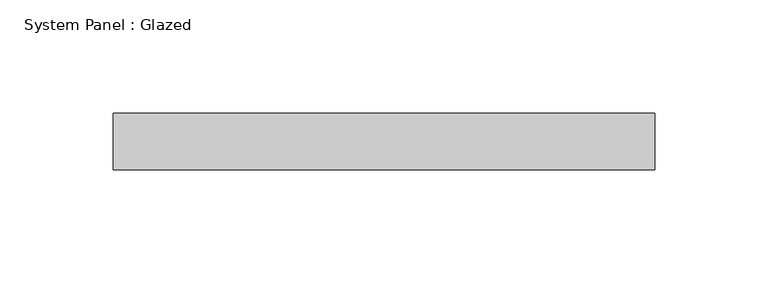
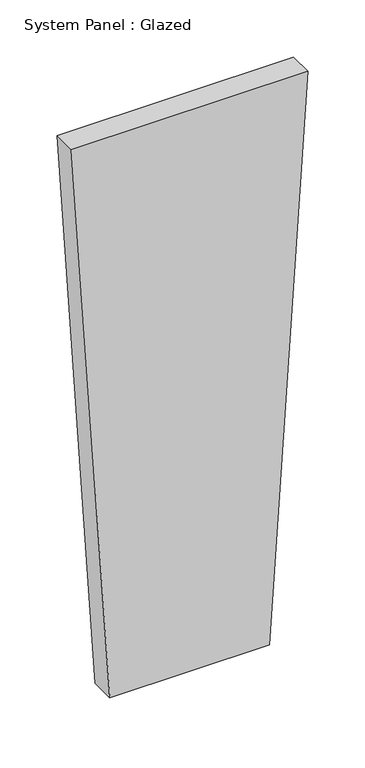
"""IFC4 building model written with IfcOpenShell, lengths in millimetres: plate geometry, System Panel : Glazed."""

from ifc_helpers import new_model, si_unit, frame, origin, place, context, project, spatial, polyline, outline, extrude, source, transform, mapped, element, save


def system_panel_glazed_06019405(model_context):
    return source(origin(), model_context, "Body", "SweptSolid", [
        extrude(outline(polyline([(0.0, -80.8688477), (0.0, 80.8688477), (598.7602235, 119.420044), (598.7602235, -119.420044), (0.0, -80.8688477)])), frame((0.0, 24.5, 0.0), z_axis=(0.0, 1.0, 0.0), x_axis=(0.0, 0.0, 1.0)), (0.0, 0.0, 1.0), 25.0),
    ])


if __name__ == "__main__":
    model = new_model("IFC4")
    model_context = context("Model", 3, world=origin())
    ifc_project = project(units=[si_unit("LENGTHUNIT", "METRE", prefix="MILLI")], contexts=[model_context])
    site = spatial("IfcSite", under=ifc_project)
    building = spatial("IfcBuilding", under=site)
    placement = place(None, origin())
    system_panel_glazed_shape = system_panel_glazed_06019405(model_context)
    element("IfcPlate", 1, ObjectType="System Panel : Glazed", at=placement, inside=building, context=model_context, shape_type="MappedRepresentation", body=[
        mapped(system_panel_glazed_shape, transform((0.0, 0.0, 0.0), x_axis=(1.0, 0.0, 0.0), y_axis=(0.0, 1.0, 0.0), z_axis=(0.0, 0.0, 1.0))),
    ])
    save(model, "model.ifc")
